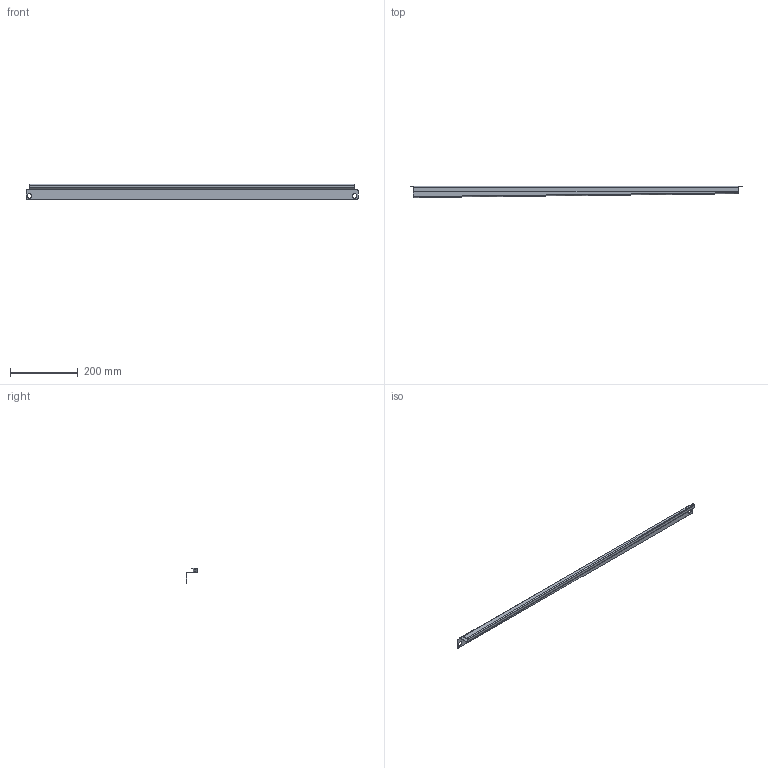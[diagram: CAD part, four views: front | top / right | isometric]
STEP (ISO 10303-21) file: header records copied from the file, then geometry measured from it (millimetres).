
FILE_DESCRIPTION (( 'STEP AP203' ), '1' );
FILE_NAME ('p2ads10.STEP', '2016-06-10T13:13:09', ( '' ), ( '' ), 'SwSTEP 2.0', 'SolidWorks 2014', '' );
FILE_SCHEMA (( 'CONFIG_CONTROL_DESIGN' ));
Length unit declared in the file: millimetre
Products named in the file (2): 89137532; p2ads10
Assembly tree (1 placements, depth 2):
  p2ads10
    89137532
Bounding box: 978.99 x 32.87 x 46.08 mm (x, y, z)
Volume: 107927 mm3; surface area: 157576.2 mm2
Topology: 1 solids, 1 shells, 43 faces, 99 edges, 58 vertices
Faces by surface type: plane 22, cylinder 17, bspline 4
Entity records: 1483 total; most frequent: CARTESIAN_POINT 336, DIRECTION 203, ORIENTED_EDGE 198, EDGE_CURVE 99, AXIS2_PLACEMENT_3D 69, LINE 65, VECTOR 65, VERTEX_POINT 58
